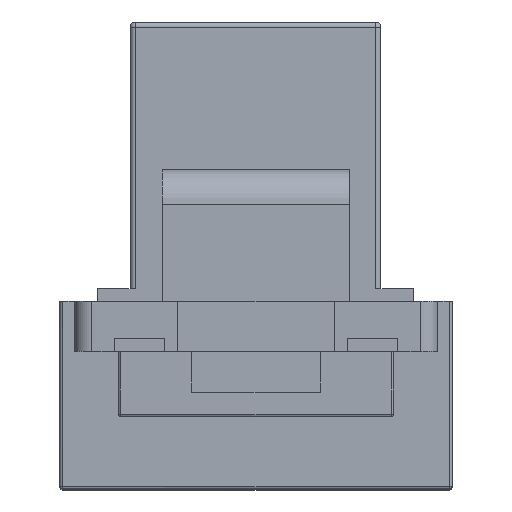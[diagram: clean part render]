
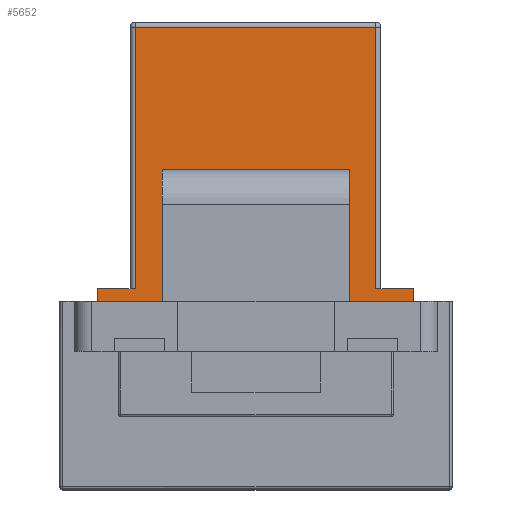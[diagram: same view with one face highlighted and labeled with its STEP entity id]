
A CAD part, top view. The second image highlights one B-rep face of the part: STEP entity #5652.
In plain terms, the highlighted planar face has unit normal (0, 0, 1) as drawn and (0, -1, 0) by its records, which use the part's own axes.
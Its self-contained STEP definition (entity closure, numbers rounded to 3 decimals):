
#5652 = ADVANCED_FACE('',(#5653,#5783),#5817,.T.);
#5653 = FACE_BOUND('',#5654,.T.);
#5654 = EDGE_LOOP('',(#5655,#5665,#5673,#5681,#5689,#5697,#5705,#5713,
    #5721,#5729,#5737,#5745,#5753,#5761,#5769,#5777));
#5655 = ORIENTED_EDGE('',*,*,#5656,.T.);
#5656 = EDGE_CURVE('',#5657,#5659,#5661,.T.);
#5657 = VERTEX_POINT('',#5658);
#5658 = CARTESIAN_POINT('',(7.25,-8.1,11.6));
#5659 = VERTEX_POINT('',#5660);
#5660 = CARTESIAN_POINT('',(6.95,-8.1,11.6));
#5661 = LINE('',#5662,#5663);
#5662 = CARTESIAN_POINT('',(3.625,-8.1,11.6));
#5663 = VECTOR('',#5664,1.);
#5664 = DIRECTION('',(-1.,0.,0.));
#5665 = ORIENTED_EDGE('',*,*,#5666,.T.);
#5666 = EDGE_CURVE('',#5659,#5667,#5669,.T.);
#5667 = VERTEX_POINT('',#5668);
#5668 = CARTESIAN_POINT('',(6.95,-8.1,26.7));
#5669 = LINE('',#5670,#5671);
#5670 = CARTESIAN_POINT('',(6.95,-8.1,11.6));
#5671 = VECTOR('',#5672,1.);
#5672 = DIRECTION('',(0.,0.,1.));
#5673 = ORIENTED_EDGE('',*,*,#5674,.F.);
#5674 = EDGE_CURVE('',#5675,#5667,#5677,.T.);
#5675 = VERTEX_POINT('',#5676);
#5676 = CARTESIAN_POINT('',(-6.95,-8.1,26.7));
#5677 = LINE('',#5678,#5679);
#5678 = CARTESIAN_POINT('',(-7.25,-8.1,26.7));
#5679 = VECTOR('',#5680,1.);
#5680 = DIRECTION('',(1.,0.,0.));
#5681 = ORIENTED_EDGE('',*,*,#5682,.F.);
#5682 = EDGE_CURVE('',#5683,#5675,#5685,.T.);
#5683 = VERTEX_POINT('',#5684);
#5684 = CARTESIAN_POINT('',(-6.95,-8.1,11.6));
#5685 = LINE('',#5686,#5687);
#5686 = CARTESIAN_POINT('',(-6.95,-8.1,11.6));
#5687 = VECTOR('',#5688,1.);
#5688 = DIRECTION('',(0.,0.,1.));
#5689 = ORIENTED_EDGE('',*,*,#5690,.F.);
#5690 = EDGE_CURVE('',#5691,#5683,#5693,.T.);
#5691 = VERTEX_POINT('',#5692);
#5692 = CARTESIAN_POINT('',(-7.25,-8.1,11.6));
#5693 = LINE('',#5694,#5695);
#5694 = CARTESIAN_POINT('',(-3.625,-8.1,11.6));
#5695 = VECTOR('',#5696,1.);
#5696 = DIRECTION('',(1.,0.,0.));
#5697 = ORIENTED_EDGE('',*,*,#5698,.T.);
#5698 = EDGE_CURVE('',#5691,#5699,#5701,.T.);
#5699 = VERTEX_POINT('',#5700);
#5700 = CARTESIAN_POINT('',(-9.15,-8.1,11.6));
#5701 = LINE('',#5702,#5703);
#5702 = CARTESIAN_POINT('',(-7.25,-8.1,11.6));
#5703 = VECTOR('',#5704,1.);
#5704 = DIRECTION('',(-1.,0.,0.));
#5705 = ORIENTED_EDGE('',*,*,#5706,.F.);
#5706 = EDGE_CURVE('',#5707,#5699,#5709,.T.);
#5707 = VERTEX_POINT('',#5708);
#5708 = CARTESIAN_POINT('',(-9.15,-8.1,9.7));
#5709 = LINE('',#5710,#5711);
#5710 = CARTESIAN_POINT('',(-9.15,-8.1,9.7));
#5711 = VECTOR('',#5712,1.);
#5712 = DIRECTION('',(0.,0.,1.));
#5713 = ORIENTED_EDGE('',*,*,#5714,.F.);
#5714 = EDGE_CURVE('',#5715,#5707,#5717,.T.);
#5715 = VERTEX_POINT('',#5716);
#5716 = CARTESIAN_POINT('',(-7.25,-8.1,9.7));
#5717 = LINE('',#5718,#5719);
#5718 = CARTESIAN_POINT('',(-7.25,-8.1,9.7));
#5719 = VECTOR('',#5720,1.);
#5720 = DIRECTION('',(-1.,0.,0.));
#5721 = ORIENTED_EDGE('',*,*,#5722,.T.);
#5722 = EDGE_CURVE('',#5715,#5723,#5725,.T.);
#5723 = VERTEX_POINT('',#5724);
#5724 = CARTESIAN_POINT('',(-6.95,-8.1,9.7));
#5725 = LINE('',#5726,#5727);
#5726 = CARTESIAN_POINT('',(-3.625,-8.1,9.7));
#5727 = VECTOR('',#5728,1.);
#5728 = DIRECTION('',(1.,0.,0.));
#5729 = ORIENTED_EDGE('',*,*,#5730,.F.);
#5730 = EDGE_CURVE('',#5731,#5723,#5733,.T.);
#5731 = VERTEX_POINT('',#5732);
#5732 = CARTESIAN_POINT('',(-6.95,-8.1,0.3));
#5733 = LINE('',#5734,#5735);
#5734 = CARTESIAN_POINT('',(-6.95,-8.1,0.));
#5735 = VECTOR('',#5736,1.);
#5736 = DIRECTION('',(0.,0.,1.));
#5737 = ORIENTED_EDGE('',*,*,#5738,.T.);
#5738 = EDGE_CURVE('',#5731,#5739,#5741,.T.);
#5739 = VERTEX_POINT('',#5740);
#5740 = CARTESIAN_POINT('',(6.95,-8.1,0.3));
#5741 = LINE('',#5742,#5743);
#5742 = CARTESIAN_POINT('',(-7.25,-8.1,0.3));
#5743 = VECTOR('',#5744,1.);
#5744 = DIRECTION('',(1.,0.,0.));
#5745 = ORIENTED_EDGE('',*,*,#5746,.T.);
#5746 = EDGE_CURVE('',#5739,#5747,#5749,.T.);
#5747 = VERTEX_POINT('',#5748);
#5748 = CARTESIAN_POINT('',(6.95,-8.1,9.7));
#5749 = LINE('',#5750,#5751);
#5750 = CARTESIAN_POINT('',(6.95,-8.1,0.));
#5751 = VECTOR('',#5752,1.);
#5752 = DIRECTION('',(0.,0.,1.));
#5753 = ORIENTED_EDGE('',*,*,#5754,.F.);
#5754 = EDGE_CURVE('',#5755,#5747,#5757,.T.);
#5755 = VERTEX_POINT('',#5756);
#5756 = CARTESIAN_POINT('',(7.25,-8.1,9.7));
#5757 = LINE('',#5758,#5759);
#5758 = CARTESIAN_POINT('',(3.625,-8.1,9.7));
#5759 = VECTOR('',#5760,1.);
#5760 = DIRECTION('',(-1.,0.,0.));
#5761 = ORIENTED_EDGE('',*,*,#5762,.T.);
#5762 = EDGE_CURVE('',#5755,#5763,#5765,.T.);
#5763 = VERTEX_POINT('',#5764);
#5764 = CARTESIAN_POINT('',(9.15,-8.1,9.7));
#5765 = LINE('',#5766,#5767);
#5766 = CARTESIAN_POINT('',(7.25,-8.1,9.7));
#5767 = VECTOR('',#5768,1.);
#5768 = DIRECTION('',(1.,0.,0.));
#5769 = ORIENTED_EDGE('',*,*,#5770,.T.);
#5770 = EDGE_CURVE('',#5763,#5771,#5773,.T.);
#5771 = VERTEX_POINT('',#5772);
#5772 = CARTESIAN_POINT('',(9.15,-8.1,11.6));
#5773 = LINE('',#5774,#5775);
#5774 = CARTESIAN_POINT('',(9.15,-8.1,9.7));
#5775 = VECTOR('',#5776,1.);
#5776 = DIRECTION('',(0.,0.,1.));
#5777 = ORIENTED_EDGE('',*,*,#5778,.F.);
#5778 = EDGE_CURVE('',#5657,#5771,#5779,.T.);
#5779 = LINE('',#5780,#5781);
#5780 = CARTESIAN_POINT('',(7.25,-8.1,11.6));
#5781 = VECTOR('',#5782,1.);
#5782 = DIRECTION('',(1.,0.,0.));
#5783 = FACE_BOUND('',#5784,.T.);
#5784 = EDGE_LOOP('',(#5785,#5795,#5803,#5811));
#5785 = ORIENTED_EDGE('',*,*,#5786,.F.);
#5786 = EDGE_CURVE('',#5787,#5789,#5791,.T.);
#5787 = VERTEX_POINT('',#5788);
#5788 = CARTESIAN_POINT('',(-5.4,-8.1,18.46));
#5789 = VERTEX_POINT('',#5790);
#5790 = CARTESIAN_POINT('',(-5.4,-8.1,16.82));
#5791 = LINE('',#5792,#5793);
#5792 = CARTESIAN_POINT('',(-5.4,-8.1,18.46));
#5793 = VECTOR('',#5794,1.);
#5794 = DIRECTION('',(0.,0.,-1.));
#5795 = ORIENTED_EDGE('',*,*,#5796,.T.);
#5796 = EDGE_CURVE('',#5787,#5797,#5799,.T.);
#5797 = VERTEX_POINT('',#5798);
#5798 = CARTESIAN_POINT('',(5.43,-8.1,18.46));
#5799 = LINE('',#5800,#5801);
#5800 = CARTESIAN_POINT('',(-5.4,-8.1,18.46));
#5801 = VECTOR('',#5802,1.);
#5802 = DIRECTION('',(1.,0.,0.));
#5803 = ORIENTED_EDGE('',*,*,#5804,.T.);
#5804 = EDGE_CURVE('',#5797,#5805,#5807,.T.);
#5805 = VERTEX_POINT('',#5806);
#5806 = CARTESIAN_POINT('',(5.43,-8.1,16.82));
#5807 = LINE('',#5808,#5809);
#5808 = CARTESIAN_POINT('',(5.43,-8.1,18.46));
#5809 = VECTOR('',#5810,1.);
#5810 = DIRECTION('',(0.,0.,-1.));
#5811 = ORIENTED_EDGE('',*,*,#5812,.F.);
#5812 = EDGE_CURVE('',#5789,#5805,#5813,.T.);
#5813 = LINE('',#5814,#5815);
#5814 = CARTESIAN_POINT('',(-5.42,-8.1,16.82));
#5815 = VECTOR('',#5816,1.);
#5816 = DIRECTION('',(1.,0.,0.));
#5817 = PLANE('',#5818);
#5818 = AXIS2_PLACEMENT_3D('',#5819,#5820,#5821);
#5819 = CARTESIAN_POINT('',(0.,-8.1,13.261));
#5820 = DIRECTION('',(-0.,-1.,-0.));
#5821 = DIRECTION('',(0.,0.,-1.));
